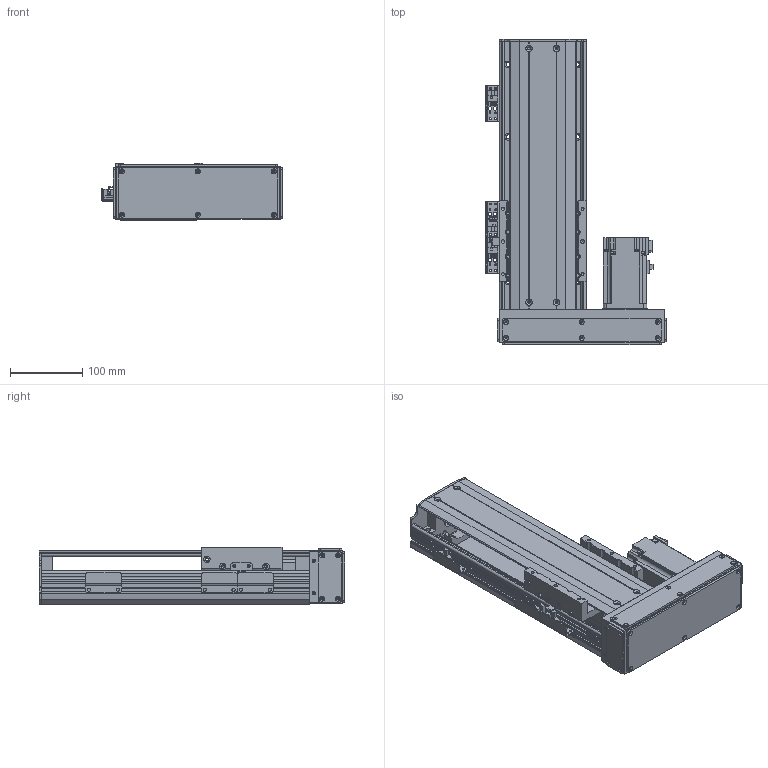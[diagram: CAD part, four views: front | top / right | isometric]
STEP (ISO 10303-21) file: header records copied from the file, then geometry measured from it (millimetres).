
FILE_DESCRIPTION(/* description */ ('MANUFACTURE'),/* implementation_level */ '2;1');
FILE_NAME(/* name */ '\\192.168.0.160\disk1\HAN SHIN Master\B-설계부문\C-표준\B-2024년\BC02-표준도면\+로봇 개선표준도면\홈페이지 표준 도면\홈페이지 최종 작업 폴더\3D\HR\HR120\HR120병렬\우병렬\HR120-R40-N-0200-L10.stp',/* time_stamp */ '2025-01-20T18:41:07+09:00',/* author */ ('user'),/* organization */ (''),/* preprocessor_version */ 'ST-DEVELOPER v18.1',/* originating_system */ 'Autodesk Inventor 2022',/* authorisation */ 'LIP');
FILE_SCHEMA (('CONFIG_CONTROL_DESIGN'));
Products named in the file (20): HG120-L40-N-0500-R10; HR120 S BASE; HR(HG) 120,130 FRONT BLOCK; HR(HG) 120,130 FRONT BLOCK_1; HR120 FRONT COVER; HG5UPCOV003; ORP6; HG120 TABLE-N; HR120 STOPPER; HR120 LR MOTOR PLATE (400W)-사출; MOTOR PLATE - 200W; hg-kr43_; 화살표; HR120 LR BELT COVER; HR160 ACRYL COVER - 1; HR160 ACRYL COVER - 1_1; HR160 ACRYL COVER - 1_2; HR120 SENSOR DOG; SENSOR BRK(EE-SX674A); EE_SX674A
Assembly tree (25 placements, depth 2):
  HG120-L40-N-0500-R10
    HR120 S BASE
    HR(HG) 120,130 FRONT BLOCK
    HR(HG) 120,130 FRONT BLOCK_1
    HR120 FRONT COVER
    HG5UPCOV003
    ORP6
    HG120 TABLE-N
    HR120 STOPPER
    HR120 LR MOTOR PLATE (400W)-사출
    MOTOR PLATE - 200W
    hg-kr43_
    화살표  x2
    HR120 LR BELT COVER
    HR160 ACRYL COVER - 1
    HR160 ACRYL COVER - 1_1
    HR160 ACRYL COVER - 1_2  x2
    SENSOR BRK(EE-SX674A)  x3
    EE_SX674A  x3
    HR120 SENSOR DOG
Bounding box: 250 x 423 x 80 mm (x, y, z)
Volume: 1680557.7 mm3; surface area: 664203.6 mm2
Topology: 25 solids, 25 shells, 2962 faces, 8376 edges, 5536 vertices
Faces by surface type: plane 2177, cylinder 660, cone 124, torus 1
Full cylindrical faces by diameter (mm): 2.459 x50, 3 x4, 3.242 x38, 3.4 x20, 3.5 x6, 4.134 x34, 4.5 x56, 4.917 x6, 5 x26, 5.5 x23, 5.8 x4, 5.9 x8, 6 x4, 6.6 x2, 7 x4, 7.5 x16, 8 x4, 9 x6, 9.5 x11, 14 x1, 17 x1, 20 x1, 22 x1, 24 x1, 28 x1, 32 x2, 33.7 x1, 50 x2
Entity records: 92145 total; most frequent: CARTESIAN_POINT 17502, ORIENTED_EDGE 15540, DIRECTION 14513, EDGE_CURVE 7770, LINE 6327, VECTOR 6327, VERTEX_POINT 5188, AXIS2_PLACEMENT_3D 4093
